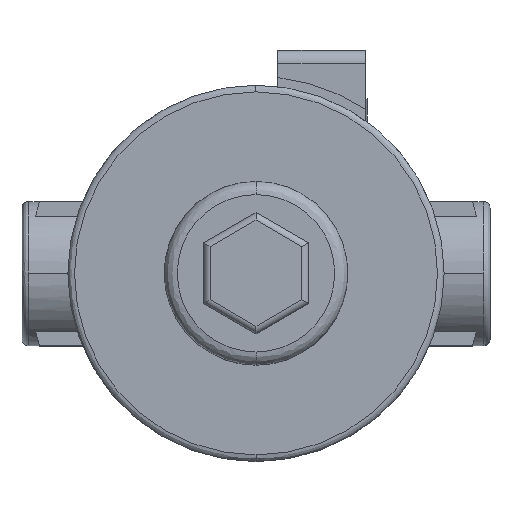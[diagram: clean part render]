
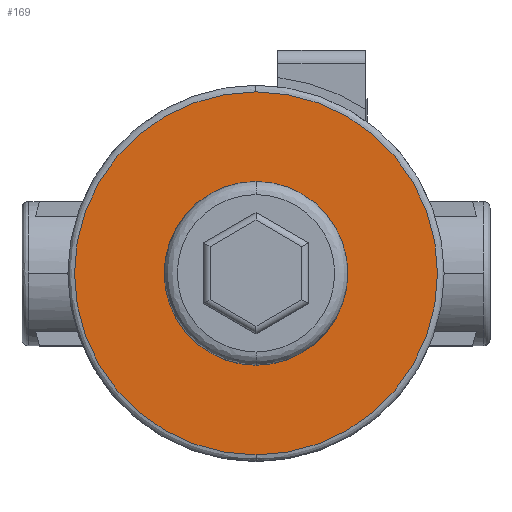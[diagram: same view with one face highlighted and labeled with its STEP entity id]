
A CAD part, top view. The second image highlights one B-rep face of the part: STEP entity #169.
In plain terms, the highlighted planar face has unit normal (0, 0, 1) as drawn and (0, 1, 0) by its records, which use the part's own axes.
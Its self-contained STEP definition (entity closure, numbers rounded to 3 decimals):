
#169=ADVANCED_FACE('',(#1179,#1180),#1178,.T.);
#1178=PLANE('',#2278);
#1179=FACE_OUTER_BOUND('',#2279,.T.);
#1180=FACE_BOUND('',#2280,.T.);
#2275=CARTESIAN_POINT('',(-81.88,49.35,-93.));
#2276=DIRECTION('',(0.,1.,0.));
#2277=DIRECTION('',(0.,0.,1.));
#2278=AXIS2_PLACEMENT_3D('',#2275,#2276,#2277);
#2279=EDGE_LOOP('',(#3309,#3310));
#2280=EDGE_LOOP('',(#3311,#3312,#3313));
#3309=ORIENTED_EDGE('',*,*,#3906,.T.);
#3310=ORIENTED_EDGE('',*,*,#3907,.T.);
#3311=ORIENTED_EDGE('',*,*,#3908,.T.);
#3312=ORIENTED_EDGE('',*,*,#3909,.T.);
#3313=ORIENTED_EDGE('',*,*,#3910,.T.);
#3906=EDGE_CURVE('',#5717,#5718,#5719,.T.);
#3907=EDGE_CURVE('',#5718,#5717,#5725,.T.);
#3908=EDGE_CURVE('',#5731,#5732,#5733,.T.);
#3909=EDGE_CURVE('',#5732,#5739,#5740,.T.);
#3910=EDGE_CURVE('',#5739,#5731,#5746,.T.);
#5717=VERTEX_POINT('',#7673);
#5718=VERTEX_POINT('',#7674);
#5719=CIRCLE('',#7678,41.5);
#5725=CIRCLE('',#7682,41.5);
#5731=VERTEX_POINT('',#7683);
#5732=VERTEX_POINT('',#7684);
#5733=CIRCLE('',#7688,21.);
#5739=VERTEX_POINT('',#7689);
#5740=CIRCLE('',#7693,21.);
#5746=CIRCLE('',#7697,21.);
#7673=CARTESIAN_POINT('',(0.,49.35,41.5));
#7674=CARTESIAN_POINT('',(0.,49.35,-41.5));
#7675=CARTESIAN_POINT('',(0.,49.35,0.));
#7676=DIRECTION('',(0.,1.,0.));
#7677=DIRECTION('',(0.,0.,1.));
#7678=AXIS2_PLACEMENT_3D('',#7675,#7676,#7677);
#7679=CARTESIAN_POINT('',(0.,49.35,0.));
#7680=DIRECTION('',(0.,1.,0.));
#7681=DIRECTION('',(0.,0.,1.));
#7682=AXIS2_PLACEMENT_3D('',#7679,#7680,#7681);
#7683=CARTESIAN_POINT('',(0.,49.35,21.));
#7684=CARTESIAN_POINT('',(-21.,49.35,0.));
#7685=CARTESIAN_POINT('',(0.,49.35,0.));
#7686=DIRECTION('',(0.,-1.,0.));
#7687=DIRECTION('',(0.,0.,1.));
#7688=AXIS2_PLACEMENT_3D('',#7685,#7686,#7687);
#7689=CARTESIAN_POINT('',(21.,49.35,-0.002));
#7690=CARTESIAN_POINT('',(0.,49.35,0.));
#7691=DIRECTION('',(0.,-1.,0.));
#7692=DIRECTION('',(0.,0.,1.));
#7693=AXIS2_PLACEMENT_3D('',#7690,#7691,#7692);
#7694=CARTESIAN_POINT('',(0.,49.35,0.));
#7695=DIRECTION('',(0.,-1.,0.));
#7696=DIRECTION('',(0.,0.,1.));
#7697=AXIS2_PLACEMENT_3D('',#7694,#7695,#7696);
